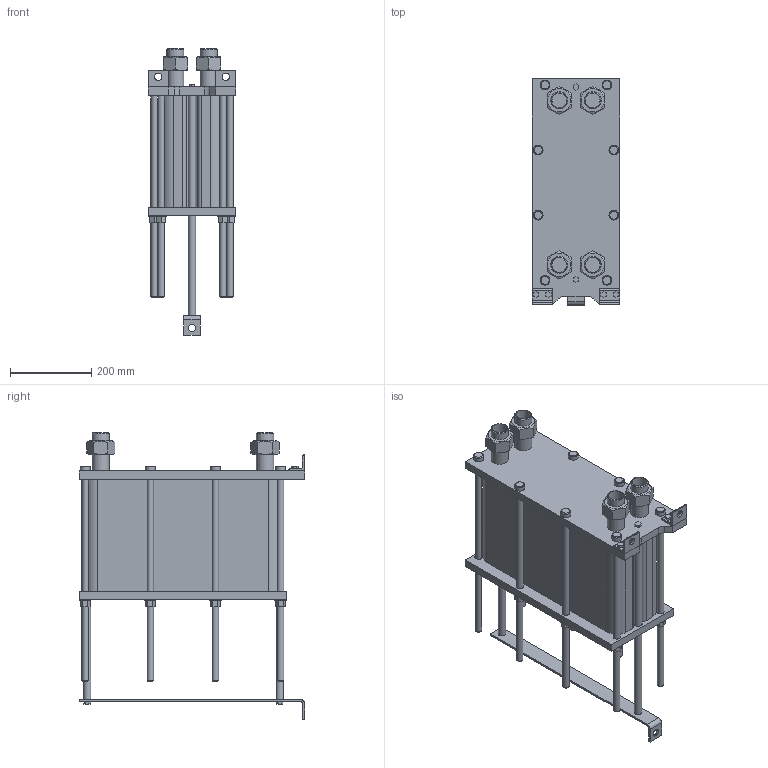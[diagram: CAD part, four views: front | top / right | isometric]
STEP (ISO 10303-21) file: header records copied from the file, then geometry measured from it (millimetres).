
FILE_DESCRIPTION(/* description */ (''),/* implementation_level */ '2;1');
FILE_NAME(/* name */ 'C:\Users\zhuro\Desktop\ENCO\TO\ЭН-004\ЭН-0,5-004-89-1.stp',/* time_stamp */ '2022-06-06T10:51:10+03:00',/* author */ ('zhuro'),/* organization */ (''),/* preprocessor_version */ 'ST-DEVELOPER v18.1',/* originating_system */ 'Autodesk Inventor 2022',/* authorisation */ '');
FILE_SCHEMA (('AUTOMOTIVE_DESIGN { 1 0 10303 214 3 1 1 }'));
Length unit declared in the file: millimetre
Products named in the file (1): ЭН-0,5-004-89-1
Bounding box: 216 x 555 x 704.2 mm (x, y, z)
Volume: 26407360.2 mm3; surface area: 1556133.2 mm2
Topology: 40 solids, 40 shells, 403 faces, 865 edges, 574 vertices
Faces by surface type: plane 272, cylinder 103, cone 28
Full cylindrical faces by diameter (mm): 10 x4, 16 x16, 18 x29, 20 x2, 24 x8, 28 x8, 36.3 x5, 42.3 x9
Entity records: 11137 total; most frequent: CARTESIAN_POINT 1939, DIRECTION 1879, ORIENTED_EDGE 1730, EDGE_CURVE 865, AXIS2_PLACEMENT_3D 658, VERTEX_POINT 574, LINE 563, VECTOR 563
